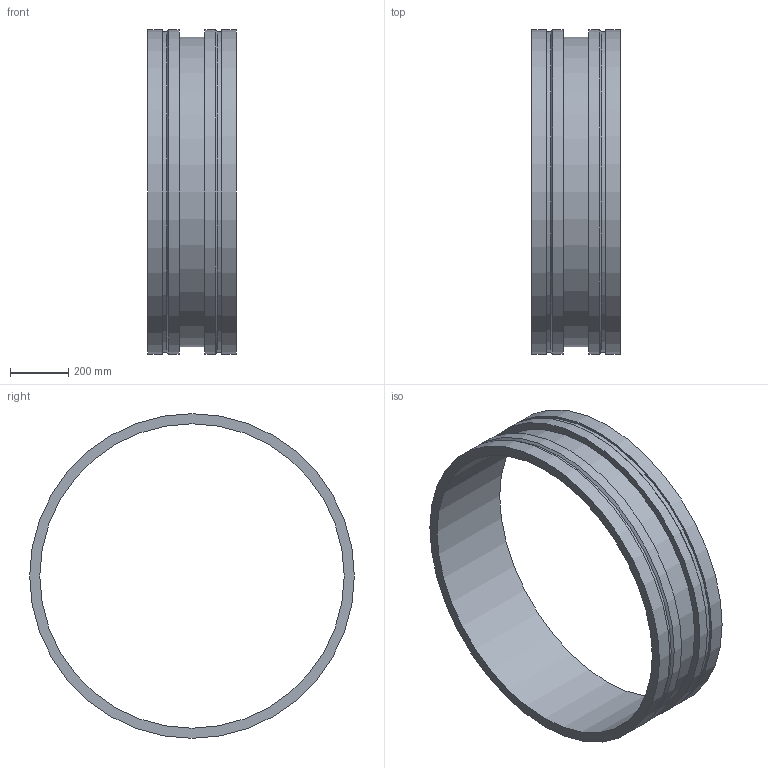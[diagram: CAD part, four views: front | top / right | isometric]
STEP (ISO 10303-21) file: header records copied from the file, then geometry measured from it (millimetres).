
FILE_DESCRIPTION(/* description */ ('VIC ADAPTER NIPPLE No W43 VR','CAx-IF Rec.Pracs.---Representation and Presentation of Product Manufacturing Information (PMI)---4.0---2014-10-13'),/* implementation_level */ '2;1');
FILE_NAME(/* name */ 'C:\Users\kkamble\AppData\Roaming\Autodesk\ApplicationPlugins\Back Up\Victaulic_Vic-Ring_Adapter Nipple_No W43 VR (AGR)\Victaulic_Vic-Ring_Adapter Nipple_No W43 VR (AGR)_42 (1050).stp',/* time_stamp */ '2020-09-10T11:31:48+05:00',/* author */ ('cps_temp'),/* organization */ ('Victaulic'),/* preprocessor_version */ 'ST-DEVELOPER v17.2',/* originating_system */ 'Autodesk Inventor 2019',/* authorisation */ '');
FILE_SCHEMA (('AP242_MANAGED_MODEL_BASED_3D_ENGINEERING_MIM_LF { 1 0 10303 442 1 1 4 }'));
Length unit declared in the file: inch
Products named in the file (1): W43 VR-42.0
Bounding box: 304.8 x 1117.6 x 1117.6 mm (x, y, z)
Volume: 27484872.3 mm3; surface area: 2550541.4 mm2
Topology: 1 solids, 1 shells, 16 faces, 42 edges, 32 vertices
Faces by surface type: cylinder 8, plane 6, cone 2
Full cylindrical faces by diameter (mm): 1047.75 x1, 1066.8 x1, 1101.725 x2, 1117.6 x4
Entity records: 686 total; most frequent: DIRECTION 134, CARTESIAN_POINT 108, ORIENTED_EDGE 84, AXIS2_PLACEMENT_3D 62, EDGE_CURVE 42, CIRCLE 32, VERTEX_POINT 32, EDGE_LOOP 22
